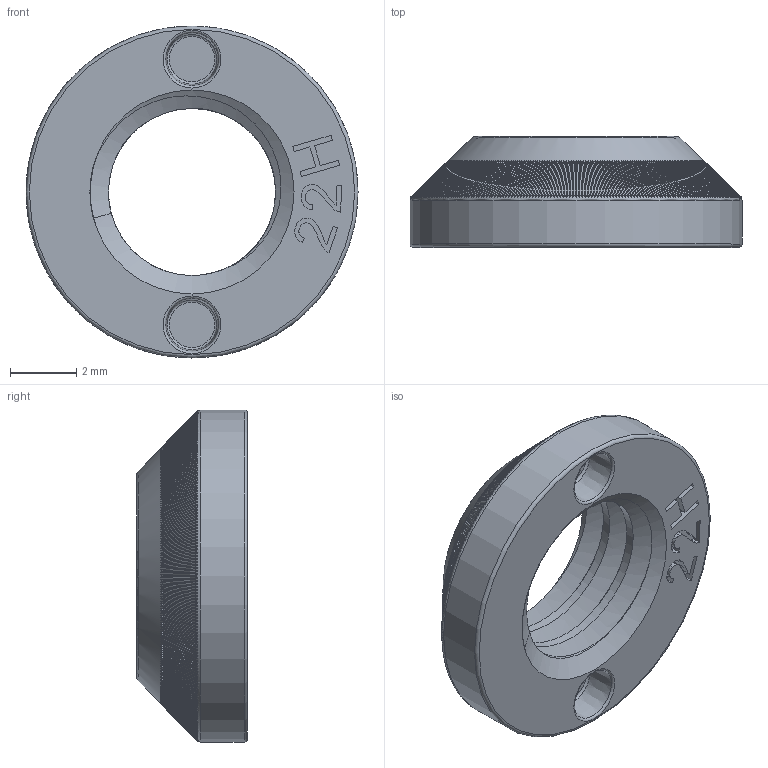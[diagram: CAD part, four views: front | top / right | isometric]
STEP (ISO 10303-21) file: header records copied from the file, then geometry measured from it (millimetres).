
FILE_DESCRIPTION(/* description */ (''),/* implementation_level */ '2;1');
FILE_NAME(/* name */ 'HEWI_CONU_M6_PreFinal_1.step',/* time_stamp */ '2024-01-24T07:08:07+01:00',/* author */ (''),/* organization */ (''),/* preprocessor_version */ 'ST-DEVELOPER v20',/* originating_system */ 'Autodesk Translation Framework v12.14.0.127',/* authorisation */ '');
FILE_SCHEMA (('AUTOMOTIVE_DESIGN { 1 0 10303 214 3 1 1 }'));
Length unit declared in the file: millimetre
Products named in the file (1): HEWI_CONU_M6
Bounding box: 10 x 3.34 x 10 mm (x, y, z)
Volume: 128.8 mm3; surface area: 286 mm2
Topology: 1 solids, 1 shells, 1734 faces, 5838 edges, 3451 vertices
Faces by surface type: bspline 1356, cylinder 340, plane 26, torus 7, cone 5
Full cylindrical faces by diameter (mm): 5.035 x2, 6.147 x2, 10 x1
Entity records: 127368 total; most frequent: CARTESIAN_POINT 91811, ORIENTED_EDGE 10358, EDGE_CURVE 5179, DIRECTION 4218, VERTEX_POINT 3451, B_SPLINE_CURVE_WITH_KNOTS 2737, AXIS2_PLACEMENT_3D 2055, EDGE_LOOP 1740
